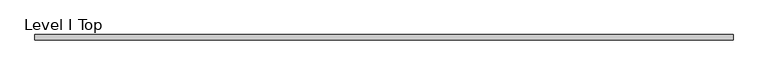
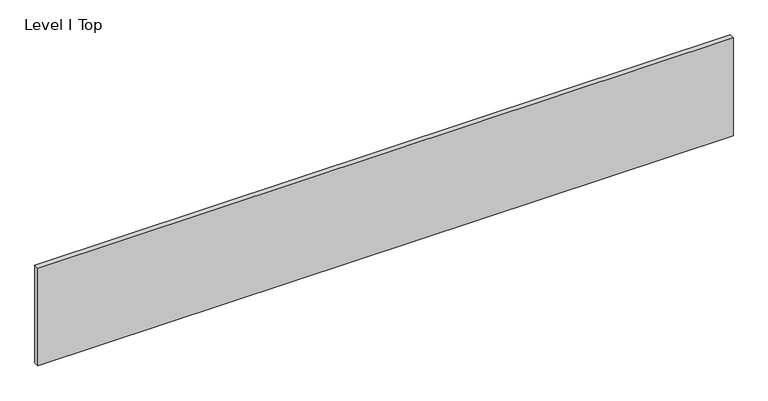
"""IFC4 building model written with IfcOpenShell, lengths in millimetres: proxy geometry, Panel-Fascia-Teknion-Altos-Landscape : Level I Top."""

from ifc_helpers import new_model, si_unit, frame, origin, place, context, project, spatial, polyline, outline, extrude, source, transform, mapped, element, save


def level_i_top_2ca9f02e(model_context):
    return source(origin(), model_context, "Body", "SweptSolid", [
        extrude(outline(polyline([(1259.8356344, 9.525), (1259.8356344, -9.525), (-1259.8356344, -9.525), (-1259.8356344, 9.525), (1259.8356344, 9.525)])), frame((0.0, 0.0, 3.175), z_axis=(0.0, 0.0, 1.0), x_axis=(1.0, 0.0, 0.0)), (0.0, 0.0, 1.0), 374.65),
    ])


if __name__ == "__main__":
    model = new_model("IFC4")
    model_context = context("Model", 3, world=origin())
    ifc_project = project(units=[si_unit("LENGTHUNIT", "METRE", prefix="MILLI")], contexts=[model_context])
    site = spatial("IfcSite", under=ifc_project)
    building = spatial("IfcBuilding", under=site)
    placement = place(None, origin())
    level_i_top_shape = level_i_top_2ca9f02e(model_context)
    element("IfcBuildingElementProxy", 1, Name="Panel-Fascia-Teknion-Altos-Landscape : Level I Top", ObjectType="Panel-Fascia-Teknion-Altos-Landscape : Level I Top", at=placement, inside=building, context=model_context, shape_type="MappedRepresentation", body=[
        mapped(level_i_top_shape, transform((0.0, 0.0, 0.0), x_axis=(1.0, 0.0, 0.0), y_axis=(0.0, 1.0, 0.0), z_axis=(0.0, 0.0, 1.0))),
    ])
    save(model, "model.ifc")
